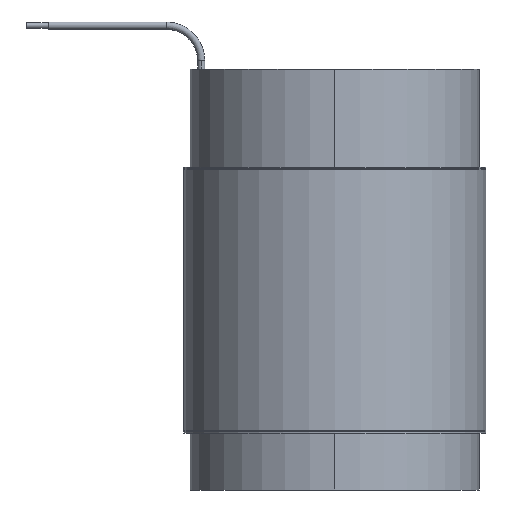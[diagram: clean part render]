
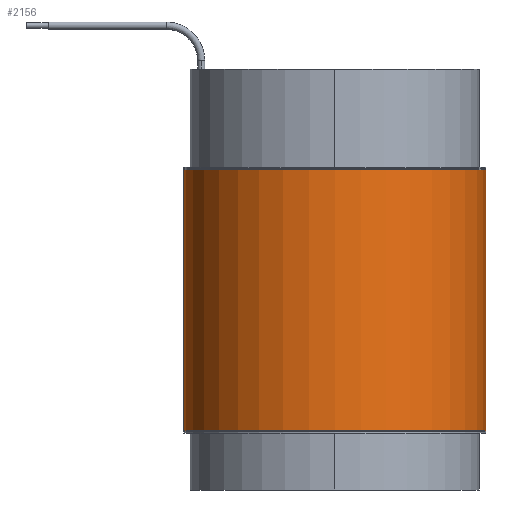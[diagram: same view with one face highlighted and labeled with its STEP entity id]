
A CAD part, left-side view. The second image highlights one B-rep face of the part: STEP entity #2156.
In plain terms, the highlighted cylindrical face has radius 43.815 mm (diameter 87.63 mm), a partial arc.
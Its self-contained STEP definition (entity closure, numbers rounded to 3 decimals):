
#8 = CARTESIAN_POINT ( 'NONE',  ( 0., 43.815, 37.9 ) ) ;
#57 = CYLINDRICAL_SURFACE ( 'NONE', #3035, 43.815 ) ;
#128 = AXIS2_PLACEMENT_3D ( 'NONE', #1362, #2355, #3065 ) ;
#190 = VERTEX_POINT ( 'NONE', #8 ) ;
#268 = ORIENTED_EDGE ( 'NONE', *, *, #554, .F. ) ;
#408 = DIRECTION ( 'NONE',  ( 0., 0., -1. ) ) ;
#530 = DIRECTION ( 'NONE',  ( 1., 0., 0. ) ) ;
#554 = EDGE_CURVE ( 'NONE', #2252, #2417, #1377, .T. ) ;
#597 = EDGE_CURVE ( 'NONE', #190, #1616, #1300, .T. ) ;
#753 = FACE_OUTER_BOUND ( 'NONE', #1422, .T. ) ;
#1011 = AXIS2_PLACEMENT_3D ( 'NONE', #2712, #1718, #530 ) ;
#1119 = DIRECTION ( 'NONE',  ( 0., 0., -1. ) ) ;
#1216 = CARTESIAN_POINT ( 'NONE',  ( 0., 0., 38.611 ) ) ;
#1293 = CIRCLE ( 'NONE', #128, 43.815 ) ;
#1300 = LINE ( 'NONE', #1591, #2218 ) ;
#1362 = CARTESIAN_POINT ( 'NONE',  ( 0., 0., -37.9 ) ) ;
#1377 = LINE ( 'NONE', #2990, #1938 ) ;
#1422 = EDGE_LOOP ( 'NONE', ( #268, #2692, #1723, #2077 ) ) ;
#1433 = EDGE_CURVE ( 'NONE', #1616, #2417, #1293, .T. ) ;
#1563 = CIRCLE ( 'NONE', #1011, 43.815 ) ;
#1591 = CARTESIAN_POINT ( 'NONE',  ( 0., 43.815, 38.611 ) ) ;
#1616 = VERTEX_POINT ( 'NONE', #1892 ) ;
#1718 = DIRECTION ( 'NONE',  ( 0., 0., 1. ) ) ;
#1723 = ORIENTED_EDGE ( 'NONE', *, *, #597, .T. ) ;
#1803 = CARTESIAN_POINT ( 'NONE',  ( 0., -43.815, -37.9 ) ) ;
#1892 = CARTESIAN_POINT ( 'NONE',  ( 0., 43.815, -37.9 ) ) ;
#1898 = CARTESIAN_POINT ( 'NONE',  ( 0., -43.815, 37.9 ) ) ;
#1938 = VECTOR ( 'NONE', #408, 1000. ) ;
#2077 = ORIENTED_EDGE ( 'NONE', *, *, #1433, .T. ) ;
#2156 = ADVANCED_FACE ( 'NONE', ( #753 ), #57, .T. ) ;
#2201 = DIRECTION ( 'NONE',  ( 0., 1., 0. ) ) ;
#2218 = VECTOR ( 'NONE', #1119, 1000. ) ;
#2252 = VERTEX_POINT ( 'NONE', #1898 ) ;
#2338 = EDGE_CURVE ( 'NONE', #190, #2252, #1563, .T. ) ;
#2355 = DIRECTION ( 'NONE',  ( 0., 0., 1. ) ) ;
#2417 = VERTEX_POINT ( 'NONE', #1803 ) ;
#2692 = ORIENTED_EDGE ( 'NONE', *, *, #2338, .F. ) ;
#2712 = CARTESIAN_POINT ( 'NONE',  ( 0., 0., 37.9 ) ) ;
#2898 = DIRECTION ( 'NONE',  ( 0., 0., -1. ) ) ;
#2990 = CARTESIAN_POINT ( 'NONE',  ( 0., -43.815, 38.611 ) ) ;
#3035 = AXIS2_PLACEMENT_3D ( 'NONE', #1216, #2898, #2201 ) ;
#3065 = DIRECTION ( 'NONE',  ( 1., 0., 0. ) ) ;
